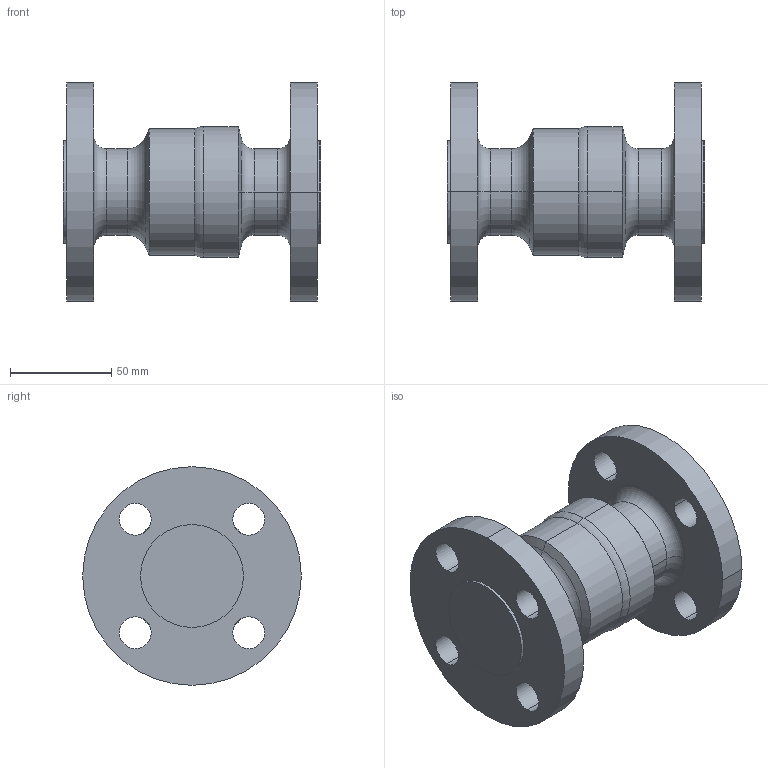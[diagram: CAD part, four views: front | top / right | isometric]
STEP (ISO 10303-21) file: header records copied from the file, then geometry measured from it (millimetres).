
FILE_DESCRIPTION (( 'STEP AP203' ), '1' );
FILE_NAME ('DLC 1-150.STEP', '2016-04-21T15:43:43', ( '' ), ( '' ), 'SwSTEP 2.0', 'SolidWorks 2015', '' );
FILE_SCHEMA (( 'CONFIG_CONTROL_DESIGN' ));
Length unit declared in the file: inch
Products named in the file (1): DLC 1-150
Bounding box: 127 x 107.95 x 107.95 mm (x, y, z)
Volume: 456474.9 mm3; surface area: 63099.7 mm2
Topology: 1 solids, 1 shells, 54 faces, 124 edges, 76 vertices
Faces by surface type: cylinder 32, torus 12, plane 6, cone 4
Entity records: 1667 total; most frequent: DIRECTION 322, CARTESIAN_POINT 255, ORIENTED_EDGE 248, AXIS2_PLACEMENT_3D 143, EDGE_CURVE 124, CIRCLE 88, VERTEX_POINT 76, EDGE_LOOP 74
